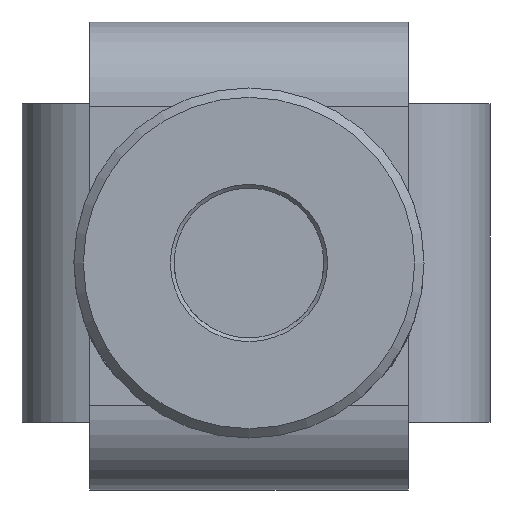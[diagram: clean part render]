
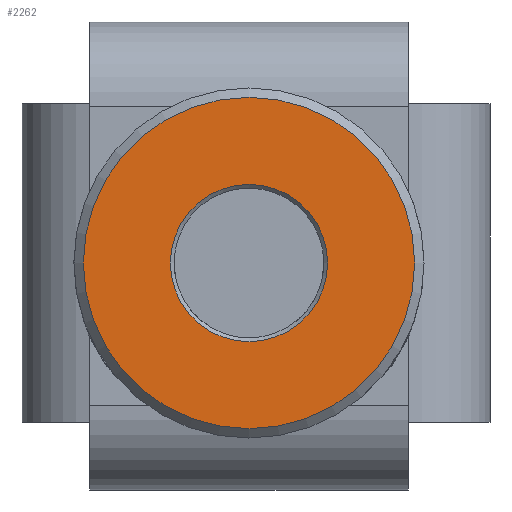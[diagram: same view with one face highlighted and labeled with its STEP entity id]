
A CAD part, front view. The second image highlights one B-rep face of the part: STEP entity #2262.
In plain terms, the highlighted planar face has unit normal (0, -1, 0).
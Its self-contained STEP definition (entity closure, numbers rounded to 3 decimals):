
#363=PLANE('',#2441);
#462=FACE_BOUND('',#697,.T.);
#529=FACE_OUTER_BOUND('',#696,.T.);
#696=EDGE_LOOP('',(#1525));
#697=EDGE_LOOP('',(#1526));
#907=CIRCLE('',#2438,4.2);
#909=CIRCLE('',#2442,8.85);
#1034=VERTEX_POINT('',#3598);
#1036=VERTEX_POINT('',#3604);
#1228=EDGE_CURVE('',#1034,#1034,#907,.T.);
#1230=EDGE_CURVE('',#1036,#1036,#909,.T.);
#1525=ORIENTED_EDGE('',*,*,#1230,.F.);
#1526=ORIENTED_EDGE('',*,*,#1228,.F.);
#2262=ADVANCED_FACE('',(#529,#462),#363,.F.);
#2438=AXIS2_PLACEMENT_3D('',#3599,#2745,#2746);
#2441=AXIS2_PLACEMENT_3D('',#3603,#2751,#2752);
#2442=AXIS2_PLACEMENT_3D('',#3605,#2753,#2754);
#2745=DIRECTION('center_axis',(0.,-1.,0.));
#2746=DIRECTION('ref_axis',(0.5,0.,0.866));
#2751=DIRECTION('center_axis',(0.,1.,0.));
#2752=DIRECTION('ref_axis',(0.5,0.,0.866));
#2753=DIRECTION('center_axis',(0.,1.,0.));
#2754=DIRECTION('ref_axis',(0.5,0.,0.866));
#3598=CARTESIAN_POINT('',(-2.475,-15.6,-3.637));
#3599=CARTESIAN_POINT('Origin',(-0.375,-15.6,0.));
#3603=CARTESIAN_POINT('Origin',(-0.375,-15.6,0.));
#3604=CARTESIAN_POINT('',(-4.8,-15.6,-7.664));
#3605=CARTESIAN_POINT('Origin',(-0.375,-15.6,0.));
